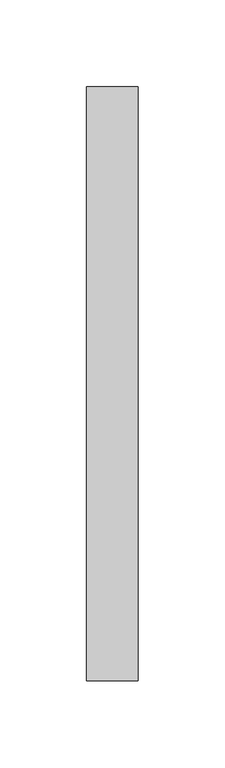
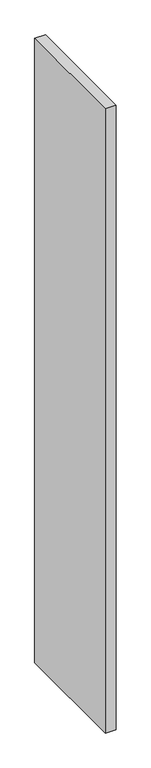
"""IFC4 building model written with IfcOpenShell, lengths in millimetres: furniture geometry, Divisoria_Lateral Fechada : Divisoria_Lateral Fechada_130x180."""

from ifc_helpers import new_model, si_unit, frame, origin, place, context, project, spatial, polyline, outline, extrude, source, transform, mapped, element, save


def furniture_5e71001c(model_context):
    return source(origin(), model_context, "Body", "SweptSolid", [
        extrude(outline(polyline([(59.7003264, 50.0), (59.7003264, -293.3256195), (29.7003264, -293.3256195), (29.7003264, 50.0), (59.7003264, 50.0)])), frame((0.0, 0.0, 50.0), z_axis=(0.0, 0.0, 1.0), x_axis=(1.0, 0.0, 0.0)), (0.0, 0.0, 1.0), 1850.0),
    ])


if __name__ == "__main__":
    model = new_model("IFC4")
    model_context = context("Model", 3, world=origin())
    ifc_project = project(units=[si_unit("LENGTHUNIT", "METRE", prefix="MILLI")], contexts=[model_context])
    site = spatial("IfcSite", under=ifc_project)
    building = spatial("IfcBuilding", under=site)
    placement = place(None, origin())
    furniture_shape = furniture_5e71001c(model_context)
    element("IfcFurniture", 1, ObjectType="Divisoria_Lateral Fechada : Divisoria_Lateral Fechada_130x180", at=placement, inside=building, context=model_context, shape_type="MappedRepresentation", body=[
        mapped(furniture_shape, transform((0.0, 0.0, 0.0), x_axis=(1.0, 0.0, 0.0), y_axis=(0.0, 1.0, 0.0), z_axis=(0.0, 0.0, 1.0))),
    ])
    save(model, "model.ifc")
